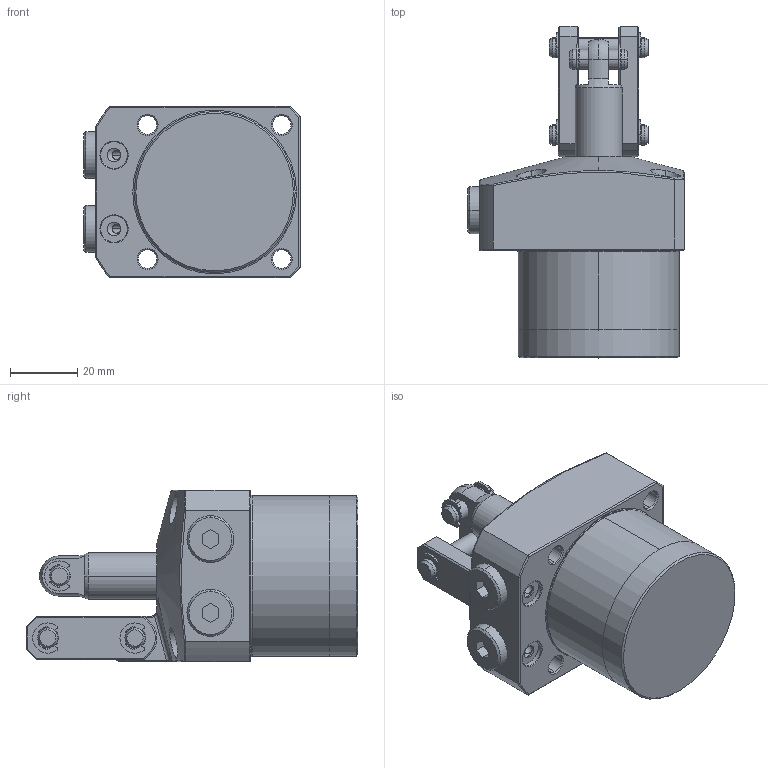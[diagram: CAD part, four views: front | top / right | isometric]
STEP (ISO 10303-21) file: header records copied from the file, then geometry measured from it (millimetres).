
FILE_DESCRIPTION(/* description */ (''),/* implementation_level */ '2;1');
FILE_NAME(/* name */ 'KTPC48-L.stp',/* time_stamp */ '2022-11-18T14:41:49+08:00',/* author */ (''),/* organization */ (''),/* preprocessor_version */ 'ST-DEVELOPER v16.7',/* originating_system */ 'SIEMENS PLM Software NX 12.0',/* authorisation */ '');
FILE_SCHEMA (('AP203_CONFIGURATION_CONTROLLED_3D_DESIGN_OF_MECHANICAL_PARTS_AND_ASSEMBLIES_MIM_LF { 1 0 10303 403 2 1 2}'));
Length unit declared in the file: millimetre
Products named in the file (9): KTPC48-L-02; KTPC48-L-01; KTPC48-L-05; KTPC48-L-08; KTPC48-L-04; KTPC48-L-03; KTPC48-L-07; KTPC48-L-06; LKA0480-CL_step
Assembly tree (16 placements, depth 2):
  LKA0480-CL_step
    KTPC48-L-06  x2
    KTPC48-L-07  x2
    KTPC48-L-03
    KTPC48-L-04  x2
    KTPC48-L-08  x6
    KTPC48-L-05
    KTPC48-L-01
    KTPC48-L-02
Bounding box: 64.5 x 99 x 51 mm (x, y, z)
Volume: 187369 mm3; surface area: 34835.6 mm2
Topology: 16 solids, 16 shells, 559 faces, 1347 edges, 842 vertices
Faces by surface type: cylinder 236, plane 175, cone 69, torus 60, bspline 17, sphere 2
Full cylindrical faces by diameter (mm): 48 x1
Entity records: 11460 total; most frequent: CARTESIAN_POINT 2848, DIRECTION 1615, ORIENTED_EDGE 1486, EDGE_CURVE 743, AXIS2_PLACEMENT_3D 661, VERTEX_POINT 456, EDGE_LOOP 361, CIRCLE 339
